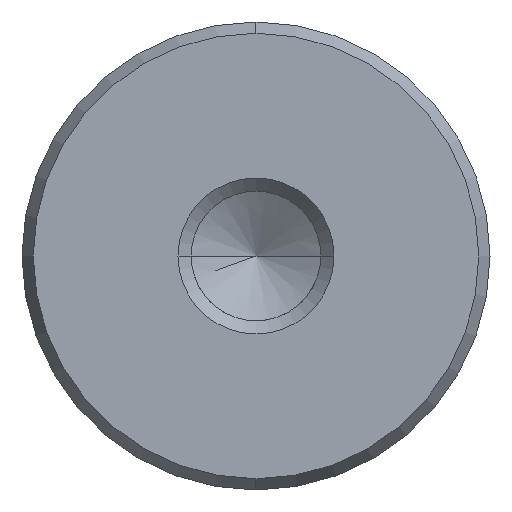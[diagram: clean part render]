
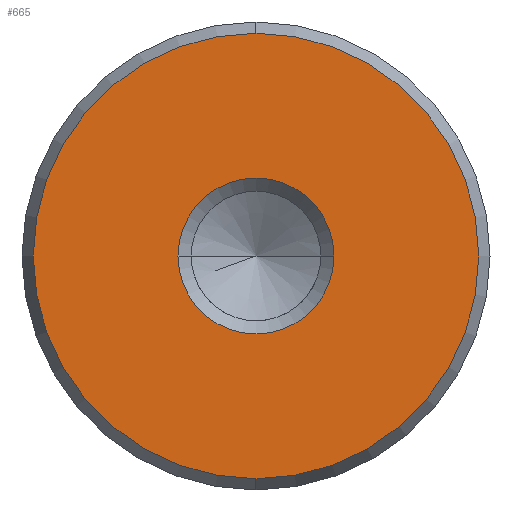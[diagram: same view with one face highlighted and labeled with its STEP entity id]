
A CAD part, left-side view. The second image highlights one B-rep face of the part: STEP entity #665.
In plain terms, the highlighted planar face has unit normal (-1, 0, 0).
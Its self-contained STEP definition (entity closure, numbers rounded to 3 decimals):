
#579=CARTESIAN_POINT('Vertex',(0.,0.,-11.423)) ;
#582=CARTESIAN_POINT('Axis2P3D Location',(0.,0.,0.)) ;
#586=CARTESIAN_POINT('Vertex',(0.,11.423,0.)) ;
#589=CARTESIAN_POINT('Axis2P3D Location',(0.,0.,0.)) ;
#593=CARTESIAN_POINT('Vertex',(0.,0.,11.423)) ;
#615=CARTESIAN_POINT('Axis2P3D Location',(0.,0.,0.)) ;
#619=CARTESIAN_POINT('Vertex',(0.,-11.423,0.)) ;
#622=CARTESIAN_POINT('Axis2P3D Location',(0.,0.,0.)) ;
#636=CARTESIAN_POINT('Axis2P3D Location',(0.,0.,0.)) ;
#647=CARTESIAN_POINT('Axis2P3D Location',(0.,0.,0.)) ;
#651=CARTESIAN_POINT('Vertex',(0.,4.,0.)) ;
#653=CARTESIAN_POINT('Vertex',(0.,-4.,0.)) ;
#656=CARTESIAN_POINT('Axis2P3D Location',(0.,0.,0.)) ;
#583=DIRECTION('Axis2P3D Direction',(1.,0.,-0.)) ;
#590=DIRECTION('Axis2P3D Direction',(1.,0.,-0.)) ;
#616=DIRECTION('Axis2P3D Direction',(1.,0.,-0.)) ;
#623=DIRECTION('Axis2P3D Direction',(1.,0.,-0.)) ;
#637=DIRECTION('Axis2P3D Direction',(1.,0.,-0.)) ;
#638=DIRECTION('Axis2P3D XDirection',(-0.,0.,-1.)) ;
#648=DIRECTION('Axis2P3D Direction',(1.,0.,-0.)) ;
#657=DIRECTION('Axis2P3D Direction',(1.,0.,-0.)) ;
#584=AXIS2_PLACEMENT_3D('Circle Axis2P3D',#582,#583,$) ;
#591=AXIS2_PLACEMENT_3D('Circle Axis2P3D',#589,#590,$) ;
#617=AXIS2_PLACEMENT_3D('Circle Axis2P3D',#615,#616,$) ;
#624=AXIS2_PLACEMENT_3D('Circle Axis2P3D',#622,#623,$) ;
#639=AXIS2_PLACEMENT_3D('Plane Axis2P3D',#636,#637,#638) ;
#649=AXIS2_PLACEMENT_3D('Circle Axis2P3D',#647,#648,$) ;
#658=AXIS2_PLACEMENT_3D('Circle Axis2P3D',#656,#657,$) ;
#642=ORIENTED_EDGE('',*,*,#588,.F.) ;
#643=ORIENTED_EDGE('',*,*,#626,.F.) ;
#644=ORIENTED_EDGE('',*,*,#621,.F.) ;
#645=ORIENTED_EDGE('',*,*,#595,.F.) ;
#662=ORIENTED_EDGE('',*,*,#655,.T.) ;
#663=ORIENTED_EDGE('',*,*,#660,.T.) ;
#664=FACE_BOUND('',#661,.T.) ;
#665=ADVANCED_FACE('720-24x450',(#646,#664),#640,.F.) ;
#585=CIRCLE('generated circle',#584,11.423) ;
#592=CIRCLE('generated circle',#591,11.423) ;
#618=CIRCLE('generated circle',#617,11.423) ;
#625=CIRCLE('generated circle',#624,11.423) ;
#650=CIRCLE('generated circle',#649,4.) ;
#659=CIRCLE('generated circle',#658,4.) ;
#588=EDGE_CURVE('',#580,#587,#585,.T.) ;
#595=EDGE_CURVE('',#587,#594,#592,.T.) ;
#621=EDGE_CURVE('',#594,#620,#618,.T.) ;
#626=EDGE_CURVE('',#620,#580,#625,.T.) ;
#655=EDGE_CURVE('',#652,#654,#650,.T.) ;
#660=EDGE_CURVE('',#654,#652,#659,.T.) ;
#641=EDGE_LOOP('',(#642,#643,#644,#645)) ;
#661=EDGE_LOOP('',(#662,#663)) ;
#646=FACE_OUTER_BOUND('',#641,.T.) ;
#640=PLANE('Plane',#639) ;
#580=VERTEX_POINT('',#579) ;
#587=VERTEX_POINT('',#586) ;
#594=VERTEX_POINT('',#593) ;
#620=VERTEX_POINT('',#619) ;
#652=VERTEX_POINT('',#651) ;
#654=VERTEX_POINT('',#653) ;
